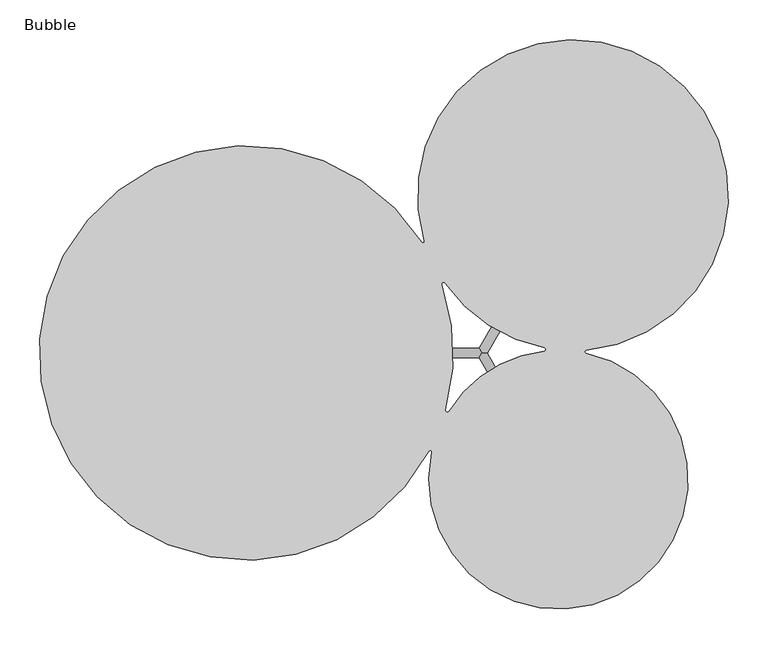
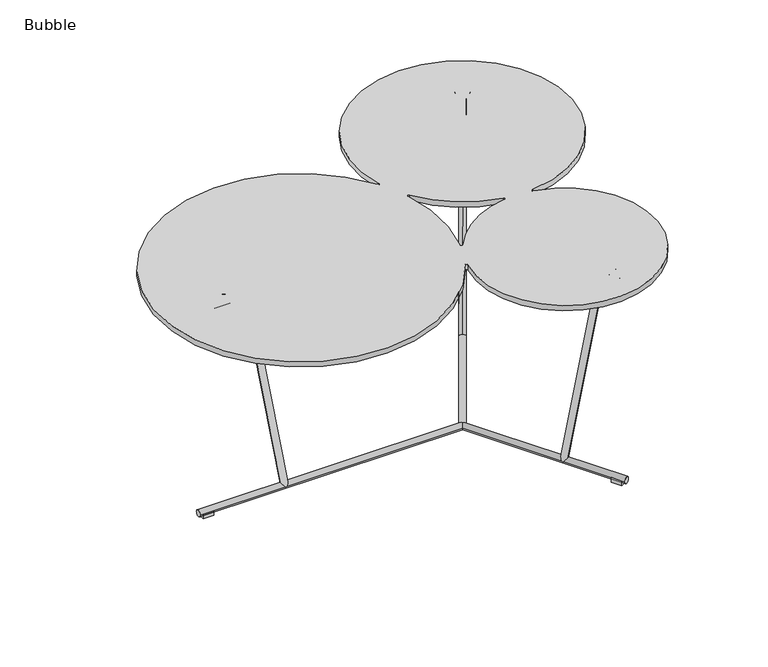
"""IFC4 building model written with IfcOpenShell, lengths in millimetres: furniture geometry, Furniture_Tables_Bla-Station_Bubble : Bubble."""

from ifc_helpers import new_model, si_unit, point, frame, frame_2d, origin, place, context, project, spatial, polyline, circle_curve, ellipse_curve, trimmed, segment, composite_curve, outline, extrude, source, transform, mapped, element, save
from ifc_brep_helpers import plane_surface, cylinder_surface, revolved_surface, spline_surface, advanced_brep


def bubble_e683490c(model_context):
    return source(origin(), model_context, "Body", "SolidModel", [
        extrude(outline(composite_curve([segment(trimmed(circle_curve(frame_2d((-172.3962757, -35.7557723)), 260.1037247), [point((56.6046667, -159.094801))], [point((47.3290736, 103.4373255))], False, "CARTESIAN"), True, "CONTINUOUS"), segment(trimmed(circle_curve(frame_2d((49.0185946, 104.5076146)), 2.0), [point((47.3290736, 103.4373255))], [point((50.9305666, 105.0944392))], True, "CARTESIAN"), True, "CONTINUOUS"), segment(trimmed(circle_curve(frame_2d((237.4222067, 162.3326585)), 195.0777937), [point((50.9305666, 105.0944392))], [point((253.9718119, -32.041867))], False, "CARTESIAN"), True, "CONTINUOUS"), segment(trimmed(circle_curve(frame_2d((254.1414838, -34.0346569)), 2.0), [point((253.9718119, -32.041867))], [point((253.7167021, -35.9890264))], True, "CARTESIAN"), True, "CONTINUOUS"), segment(trimmed(circle_curve(frame_2d((219.1894181, -194.8449028)), 162.5648264), [point((253.7167021, -35.9890264))], [point((60.3027176, -160.4597432))], False, "CARTESIAN"), True, "CONTINUOUS"), segment(trimmed(circle_curve(frame_2d((58.3571971, -160.0387071)), 1.9905581), [point((60.3027176, -160.4597432))], [point((56.6046667, -159.094801))], True, "CARTESIAN"), True, "CONTINUOUS")], self_intersect=False), holes=[composite_curve([segment(trimmed(circle_curve(frame_2d((75.0673141, 50.6162962)), 2.0), [point((76.7149365, 51.7500247))], [point((73.1790267, 49.9572283))], True, "CARTESIAN"), True, "CONTINUOUS"), segment(trimmed(circle_curve(frame_2d((-172.3962757, -35.7557723)), 260.1037247), [point((73.1790267, 49.9572283))], [point((77.7569048, -107.0111853))], False, "CARTESIAN"), True, "CONTINUOUS"), segment(trimmed(circle_curve(frame_2d((79.6803927, -107.5590853)), 2.0), [point((77.7569048, -107.0111853))], [point((81.3758829, -108.619893))], True, "CARTESIAN"), True, "CONTINUOUS"), segment(trimmed(circle_curve(frame_2d((219.1894181, -194.8449028)), 162.5648264), [point((81.3758829, -108.619893))], [point((201.0176398, -33.2989054))], False, "CARTESIAN"), True, "CONTINUOUS"), segment(trimmed(circle_curve(frame_2d((200.7940764, -31.3114399)), 2.0), [point((201.0176398, -33.2989054))], [point((201.1657888, -29.346286))], True, "CARTESIAN"), True, "CONTINUOUS"), segment(trimmed(circle_curve(frame_2d((237.4222067, 162.3326585)), 195.0777937), [point((201.1657888, -29.346286))], [point((76.7149365, 51.7500247))], False, "CARTESIAN"), True, "CONTINUOUS")], self_intersect=False)]), frame((0.0, 0.0, 408.0), z_axis=(0.0, 0.0, 1.0), x_axis=(1.0, 0.0, 0.0)), (0.0, 0.0, 1.0), 10.0),
        extrude(outline(composite_curve([segment(trimmed(circle_curve(frame_2d((0.0, -2.0)), 2.0), [point((2.0, -2.0))], [point((-2.0, -2.0))], False, "CARTESIAN"), True, "CONTINUOUS"), segment(polyline([(-2.0, -2.0), (-2.0, 20.0)]), True, "CONTINUOUS"), segment(trimmed(circle_curve(frame_2d((0.0, 20.0)), 2.0), [point((-2.0, 20.0))], [point((2.0, 20.0))], False, "CARTESIAN"), True, "CONTINUOUS"), segment(polyline([(2.0, 20.0), (2.0, -2.0)]), True, "CONTINUOUS")], self_intersect=False)), frame((275.6232902, -318.0122214, 405.9997931), z_axis=(-0.4999966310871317, 0.8660273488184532, 0.0), x_axis=(0.0, 0.0, 1.0)), (0.0, 0.0, 1.0), 28.0),
        advanced_brep(
        [(259.8913299, -294.7634489, 403.9997931), (278.9439315, -283.763523, 403.9997931), (278.9439315, -283.763523, 407.9997931), (259.8913299, -294.7634489, 407.9997931), (261.9158696, -276.2699378, 395.9997931), (261.9158696, -276.2699378, 407.9997931)],
        [
            (0, 1),
            (1, 2, circle_curve(frame((278.9439315, -283.763523, 405.9997931), z_axis=(0.49999663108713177, -0.8660273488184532, 0.0), x_axis=(0.8660273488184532, 0.49999663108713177, 0.0)), 2.0)),
            (2, 3),
            (3, 0, circle_curve(frame((259.8913299, -294.7634489, 405.9997931), z_axis=(0.49999663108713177, -0.8660273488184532, 0.0), x_axis=(0.8660273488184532, 0.49999663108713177, 0.0)), 2.0)),
            (4, 5, circle_curve(frame((261.9158696, -276.2699378, 401.9997931), z_axis=(-0.49999663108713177, 0.8660273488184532, 0.0), x_axis=(0.8660273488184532, 0.49999663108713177, 0.0)), 6.0)),
            (5, 4, circle_curve(frame((261.9158696, -276.2699378, 401.9997931), z_axis=(-0.49999663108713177, 0.8660273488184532, 0.0), x_axis=(0.8660273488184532, 0.49999663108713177, 0.0)), 6.0)),
            (0, 4),
            (4, 1),
            (2, 5),
            (5, 3),
        ],
        [
            plane_surface(frame((269.4176307, -289.263486, 405.9997931), z_axis=(0.49999663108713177, -0.8660273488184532, 0.0), x_axis=(0.8660273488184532, 0.49999663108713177, 0.0))),
            plane_surface(frame((261.9158696, -276.2699378, 401.9997931), z_axis=(-0.49999663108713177, 0.8660273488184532, 0.0), x_axis=(0.8660273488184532, 0.49999663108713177, 0.0))),
            plane_surface(frame((261.9158696, -276.2699378, 395.9997931), z_axis=(0.23524828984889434, -0.407465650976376, -0.8824001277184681), x_axis=(0.8660273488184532, 0.4999966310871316, 0.0))),
            plane_surface(frame((261.9158696, -276.2699378, 407.9997931), z_axis=(0.0, 0.0, 1.0), x_axis=(-0.8660273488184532, -0.4999966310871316, 0.0))),
            spline_surface(2, 1, [[(261.9158696, -276.2699378, 395.9997931), (278.9439315, -283.763523, 403.9997931)], [(267.1120336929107, -273.2699580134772, 395.9997931), (280.6759861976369, -282.76352973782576, 403.9997931)], [(267.1120336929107, -273.2699580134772, 401.9997931), (280.6759861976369, -282.76352973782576, 405.9997931)], [(267.1120336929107, -273.2699580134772, 407.9997931), (280.6759861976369, -282.76352973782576, 407.9997931)], [(261.9158696, -276.2699378, 407.9997931), (278.9439315, -283.763523, 407.9997931)]], [3, 2, 3], [2, 2], [0.0, 1.0, 2.0], [0.0, 1.0], weights=[[1.0, 1.0], [0.7071067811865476, 0.7071067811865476], [1.0, 1.0], [0.7071067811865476, 0.7071067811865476], [1.0, 1.0]]),
            spline_surface(2, 1, [[(261.9158696, -276.2699378, 407.9997931), (259.8913299, -294.7634489, 407.9997931)], [(256.7197055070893, -279.26991758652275, 407.9997931), (258.1592752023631, -295.7634421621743, 407.9997931)], [(256.7197055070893, -279.26991758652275, 401.9997931), (258.1592752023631, -295.7634421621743, 405.9997931)], [(256.7197055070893, -279.26991758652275, 395.9997931), (258.1592752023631, -295.7634421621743, 403.9997931)], [(261.9158696, -276.2699378, 395.9997931), (259.8913299, -294.7634489, 403.9997931)]], [3, 2, 3], [2, 2], [0.0, 1.0, 2.0], [0.0, 1.0], weights=[[1.0, 1.0], [0.7071067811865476, 0.7071067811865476], [1.0, 1.0], [0.7071067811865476, 0.7071067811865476], [1.0, 1.0]]),
        ],
        [
            (0, [[1, 2, 3, 4]]),
            (1, [[5, 6]]),
            (2, [[-1, 7, 8]]),
            (3, [[-3, 9, 10]]),
            (4, [[-6, -9, -2, -8]]),
            (5, [[-5, -7, -4, -10]]),
        ],
    ),
        advanced_brep(
        [(213.0220837, -191.5826557, 10.0418349), (218.9309, -201.8171176, 7.9581651), (246.5754696, -249.699347, 390.6462153), (252.4842859, -259.9338089, 388.5625455), (261.9158696, -276.2699378, 407.9997931), (261.9158696, -276.2699378, 395.9997931), (256.9158981, -267.6096553, 395.9997931), (256.9158981, -267.6096553, 407.9997931)],
        [
            (0, 1, circle_curve(frame((215.9764918, -196.6998867, 9.0), z_axis=(-0.08681899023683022, 0.15037625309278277, -0.9848093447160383), x_axis=(0.49240135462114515, -0.8528718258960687, -0.17363915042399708)), 6.0)),
            (1, 0, circle_curve(frame((215.9764918, -196.6998867, 9.0), z_axis=(-0.08681899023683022, 0.15037625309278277, -0.9848093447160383), x_axis=(0.49240135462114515, -0.8528718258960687, -0.17363915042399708)), 6.0)),
            (0, 2),
            (2, 3, circle_curve(frame((249.5298777, -254.8165779, 389.6043804), z_axis=(-0.08681899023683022, 0.15037625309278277, -0.9848093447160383), x_axis=(0.49240135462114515, -0.8528718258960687, -0.17363915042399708)), 6.0)),
            (3, 1),
            (3, 2, circle_curve(frame((249.5298777, -254.8165779, 389.6043804), z_axis=(-0.08681899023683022, 0.15037625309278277, -0.9848093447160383), x_axis=(0.49240135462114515, -0.8528718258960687, -0.17363915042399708)), 6.0)),
            (4, 5, circle_curve(frame((261.9158696, -276.2699378, 401.9997931), z_axis=(0.4999966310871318, -0.8660273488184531, 0.0), x_axis=(0.0, 0.0, -1.0)), 6.0)),
            (5, 4, circle_curve(frame((261.9158696, -276.2699378, 401.9997931), z_axis=(0.4999966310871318, -0.8660273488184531, 0.0), x_axis=(0.0, 0.0, -1.0)), 6.0)),
            (6, 7, circle_curve(frame((256.9158981, -267.6096553, 401.9997931), z_axis=(0.4999966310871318, -0.8660273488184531, 0.0), x_axis=(0.0, 0.0, -1.0)), 6.0)),
            (7, 4),
            (5, 6),
            (7, 6, circle_curve(frame((256.9158981, -267.6096553, 401.9997931), z_axis=(0.4999966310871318, -0.8660273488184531, 0.0), x_axis=(0.0, 0.0, -1.0)), 6.0)),
            (6, 3, circle_curve(frame((256.9158981, -267.6096553, 386.9997931), z_axis=(-0.8660273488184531, -0.49999663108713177, 0.0), x_axis=(-0.49240135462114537, 0.8528718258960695, 0.17363915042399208)), 9.0)),
            (2, 7, circle_curve(frame((256.9158981, -267.6096553, 386.9997931), z_axis=(0.8660273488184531, 0.49999663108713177, 0.0), x_axis=(-0.49240135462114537, 0.8528718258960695, 0.17363915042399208)), 21.0)),
        ],
        [
            plane_surface(frame((185.0138817, -214.5759974, 9.0), z_axis=(-0.08681899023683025, 0.15037625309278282, -0.9848093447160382), x_axis=(0.8660273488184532, 0.49999663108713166, 0.0))),
            cylinder_surface(frame((215.9764918, -196.6998867, 9.0), z_axis=(-0.08681899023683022, 0.15037625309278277, -0.9848093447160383), x_axis=(0.49240135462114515, -0.8528718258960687, -0.17363915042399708)), 6.0),
            plane_surface(frame((230.9532595, -294.1460485, 401.9997931), z_axis=(0.49999663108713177, -0.8660273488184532, 0.0), x_axis=(0.8660273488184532, 0.49999663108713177, 0.0))),
            cylinder_surface(frame((256.9158981, -267.6096553, 401.9997931), z_axis=(-0.4999966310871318, 0.8660273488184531, 0.0), x_axis=(0.0, 0.0, -1.0)), 6.0),
            revolved_surface(trimmed(ellipse_curve(frame((249.5298777, -254.8165779, 389.6043804), z_axis=(-0.08681899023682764, 0.15037625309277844, -0.9848093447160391), x_axis=(0.49240135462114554, -0.8528718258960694, -0.17363915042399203)), 6.0, 6.0), [point((246.5754696, -249.699347, 390.6462153))], [point((252.4842859, -259.9338089, 388.5625455))], True, "CARTESIAN"), (225.9532879, -285.485766, 386.9997931), (0.8660273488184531, 0.49999663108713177, 0.0)),
            revolved_surface(trimmed(ellipse_curve(frame((249.5298777, -254.8165779, 389.6043804), z_axis=(-0.08681899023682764, 0.15037625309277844, -0.9848093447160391), x_axis=(0.49240135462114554, -0.8528718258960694, -0.17363915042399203)), 6.0, 6.0), [point((252.4842859, -259.9338089, 388.5625455))], [point((246.5754696, -249.699347, 390.6462153))], True, "CARTESIAN"), (225.9532879, -285.485766, 386.9997931), (0.8660273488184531, 0.49999663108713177, 0.0)),
        ],
        [
            (0, [[1, 2]]),
            (1, [[-1, 3, 4, 5]]),
            (1, [[-2, -5, 6, -3]]),
            (2, [[7, 8]]),
            (3, [[9, 10, -8, 11]]),
            (3, [[12, -11, -7, -10]]),
            (4, [[13, -4, 14, -9]]),
            (5, [[-14, -6, -13, -12]]),
        ],
    ),
        extrude(outline(composite_curve([segment(polyline([(-2.0, -2.0), (-2.0, 20.0)]), True, "CONTINUOUS"), segment(trimmed(circle_curve(frame_2d((0.0, 20.0)), 2.0), [point((-2.0, 20.0))], [point((2.0, 20.0))], False, "CARTESIAN"), True, "CONTINUOUS"), segment(polyline([(2.0, 20.0), (2.0, -2.0)]), True, "CONTINUOUS"), segment(trimmed(circle_curve(frame_2d((0.0, -2.0)), 2.0), [point((2.0, -2.0))], [point((-2.0, -2.0))], False, "CARTESIAN"), True, "CONTINUOUS")], self_intersect=False)), frame((308.6487485, 267.7185424, 405.9997931), z_axis=(0.5002766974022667, 0.8658655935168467, 0.0), x_axis=(0.0, 0.0, -1.0)), (0.0, 0.0, 1.0), 28.0),
        advanced_brep(
        [(310.3804797, 266.717989, 403.9997931), (291.3314366, 277.7240763, 403.9997931), (291.3314366, 277.7240763, 407.9997931), (310.3804797, 266.717989, 407.9997931), (293.349995, 259.2299114, 395.9997931), (293.349995, 259.2299114, 407.9997931)],
        [
            (0, 1),
            (1, 2, circle_curve(frame((291.3314366, 277.7240763, 405.9997931), z_axis=(0.5002766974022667, 0.8658655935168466, 0.0), x_axis=(-0.8658655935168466, 0.5002766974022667, 0.0)), 2.0)),
            (2, 3),
            (3, 0, circle_curve(frame((310.3804797, 266.717989, 405.9997931), z_axis=(0.5002766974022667, 0.8658655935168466, 0.0), x_axis=(-0.8658655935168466, 0.5002766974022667, 0.0)), 2.0)),
            (4, 5, circle_curve(frame((293.349995, 259.2299114, 401.9997931), z_axis=(-0.5002766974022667, -0.8658655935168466, 0.0), x_axis=(-0.8658655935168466, 0.5002766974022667, 0.0)), 6.0)),
            (5, 4, circle_curve(frame((293.349995, 259.2299114, 401.9997931), z_axis=(-0.5002766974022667, -0.8658655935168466, 0.0), x_axis=(-0.8658655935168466, 0.5002766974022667, 0.0)), 6.0)),
            (0, 4),
            (4, 1),
            (2, 5),
            (5, 3),
        ],
        [
            plane_surface(frame((300.8559582, 272.2210327, 405.9997931), z_axis=(0.5002766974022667, 0.8658655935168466, 0.0), x_axis=(-0.8658655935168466, 0.5002766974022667, 0.0))),
            plane_surface(frame((293.349995, 259.2299114, 401.9997931), z_axis=(-0.5002766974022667, -0.8658655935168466, 0.0), x_axis=(-0.8658655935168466, 0.5002766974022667, 0.0))),
            plane_surface(frame((293.349995, 259.2299114, 395.9997931), z_axis=(0.23538006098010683, 0.40738954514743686, -0.8824001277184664), x_axis=(-0.8658655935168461, 0.5002766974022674, 0.0))),
            plane_surface(frame((293.349995, 259.2299114, 407.9997931), z_axis=(0.0, 0.0, 1.0000000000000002), x_axis=(0.8658655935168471, -0.5002766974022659, 0.0))),
            spline_surface(2, 1, [[(293.349995, 259.2299114, 395.9997931), (291.3314366, 277.7240763, 403.9997931)], [(288.1548014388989, 262.2315715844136, 395.9997931), (289.59970541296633, 278.7246296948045, 403.9997931)], [(288.1548014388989, 262.2315715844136, 401.9997931), (289.59970541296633, 278.7246296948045, 405.9997931)], [(288.1548014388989, 262.2315715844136, 407.9997931), (289.59970541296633, 278.7246296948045, 407.9997931)], [(293.349995, 259.2299114, 407.9997931), (291.3314366, 277.7240763, 407.9997931)]], [3, 2, 3], [2, 2], [0.0, 1.0, 2.0], [0.0, 1.0], weights=[[1.0, 1.0], [0.7071067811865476, 0.7071067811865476], [1.0, 1.0], [0.7071067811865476, 0.7071067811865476], [1.0, 1.0]]),
            spline_surface(2, 1, [[(293.349995, 259.2299114, 407.9997931), (310.3804797, 266.717989, 407.9997931)], [(298.54518856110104, 256.2282512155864, 407.9997931), (312.1122108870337, 265.7174356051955, 407.9997931)], [(298.54518856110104, 256.2282512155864, 401.9997931), (312.1122108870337, 265.7174356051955, 405.9997931)], [(298.54518856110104, 256.2282512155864, 395.9997931), (312.1122108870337, 265.7174356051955, 403.9997931)], [(293.349995, 259.2299114, 395.9997931), (310.3804797, 266.717989, 403.9997931)]], [3, 2, 3], [2, 2], [0.0, 1.0, 2.0], [0.0, 1.0], weights=[[1.0, 1.0], [0.7071067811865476, 0.7071067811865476], [1.0, 1.0], [0.7071067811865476, 0.7071067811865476], [1.0, 1.0]]),
        ],
        [
            (0, [[1, 2, 3, 4]]),
            (1, [[5, 6]]),
            (2, [[-1, 7, 8]]),
            (3, [[-3, 9, 10]]),
            (4, [[-6, -9, -2, -8]]),
            (5, [[-5, -7, -4, -10]]),
        ],
    ),
        advanced_brep(
        [(244.428822, 174.5584471, 10.0418349), (250.340948, 184.7909974, 7.9581651), (278.0010023, 232.6642834, 390.6462153), (283.9131283, 242.8968337, 388.5625455), (293.349995, 259.2299114, 407.9997931), (293.349995, 259.2299114, 395.9997931), (288.3472228, 250.5712465, 395.9997931), (288.3472228, 250.5712465, 407.9997931)],
        [
            (0, 1, circle_curve(frame((247.384885, 179.6747223, 9.0), z_axis=(-0.08686762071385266, -0.15034816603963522, -0.9848093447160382), x_axis=(0.4926771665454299, 0.8527125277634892, -0.17363915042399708)), 6.0)),
            (1, 0, circle_curve(frame((247.384885, 179.6747223, 9.0), z_axis=(-0.08686762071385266, -0.15034816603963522, -0.9848093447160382), x_axis=(0.4926771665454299, 0.8527125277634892, -0.17363915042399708)), 6.0)),
            (0, 2),
            (2, 3, circle_curve(frame((280.9570653, 237.7805586, 389.6043804), z_axis=(-0.08686762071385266, -0.15034816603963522, -0.9848093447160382), x_axis=(0.4926771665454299, 0.8527125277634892, -0.17363915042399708)), 6.0)),
            (3, 1),
            (3, 2, circle_curve(frame((280.9570653, 237.7805586, 389.6043804), z_axis=(-0.08686762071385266, -0.15034816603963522, -0.9848093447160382), x_axis=(0.4926771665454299, 0.8527125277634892, -0.17363915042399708)), 6.0)),
            (4, 5, circle_curve(frame((293.349995, 259.2299114, 401.9997931), z_axis=(0.5002766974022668, 0.8658655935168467, 0.0), x_axis=(0.0, 0.0, -1.0)), 6.0)),
            (5, 4, circle_curve(frame((293.349995, 259.2299114, 401.9997931), z_axis=(0.5002766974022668, 0.8658655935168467, 0.0), x_axis=(0.0, 0.0, -1.0)), 6.0)),
            (6, 7, circle_curve(frame((288.3472228, 250.5712465, 401.9997931), z_axis=(0.5002766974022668, 0.8658655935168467, 0.0), x_axis=(0.0, 0.0, -1.0)), 6.0)),
            (7, 4),
            (5, 6),
            (7, 6, circle_curve(frame((288.3472228, 250.5712465, 401.9997931), z_axis=(0.5002766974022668, 0.8658655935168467, 0.0), x_axis=(0.0, 0.0, -1.0)), 6.0)),
            (6, 3, circle_curve(frame((288.3472228, 250.5712465, 386.9997931), z_axis=(0.8658655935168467, -0.5002766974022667, 0.0), x_axis=(-0.4926771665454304, -0.85271252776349, 0.17363915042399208)), 9.0)),
            (2, 7, circle_curve(frame((288.3472228, 250.5712465, 386.9997931), z_axis=(-0.8658655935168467, 0.5002766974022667, 0.0), x_axis=(-0.4926771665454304, -0.85271252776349, 0.17363915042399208)), 21.0)),
        ],
        [
            plane_surface(frame((278.3417119, 161.7885985, 9.0), z_axis=(-0.08686762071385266, -0.15034816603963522, -0.9848093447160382), x_axis=(-0.8658655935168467, 0.5002766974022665, 0.0))),
            cylinder_surface(frame((247.384885, 179.6747223, 9.0), z_axis=(-0.08686762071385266, -0.15034816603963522, -0.9848093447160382), x_axis=(0.4926771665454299, 0.8527125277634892, -0.17363915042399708)), 6.0),
            plane_surface(frame((324.306822, 241.3437877, 401.9997931), z_axis=(0.5002766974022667, 0.8658655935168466, 0.0), x_axis=(-0.8658655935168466, 0.5002766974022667, 0.0))),
            cylinder_surface(frame((288.3472228, 250.5712465, 401.9997931), z_axis=(-0.5002766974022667, -0.8658655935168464, 0.0), x_axis=(0.0, 0.0, -1.0)), 6.0),
            revolved_surface(trimmed(ellipse_curve(frame((280.9570653, 237.7805586, 389.6043804), z_axis=(-0.08686762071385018, -0.15034816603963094, -0.9848093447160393), x_axis=(0.4926771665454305, 0.85271252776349, -0.1736391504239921)), 6.0, 6.0), [point((278.0010023, 232.6642834, 390.6462153))], [point((283.9131283, 242.8968337, 388.5625455))], True, "CARTESIAN"), (319.3040498, 232.6851227, 386.9997931), (-0.8658655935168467, 0.5002766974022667, 0.0)),
            revolved_surface(trimmed(ellipse_curve(frame((280.9570653, 237.7805586, 389.6043804), z_axis=(-0.08686762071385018, -0.15034816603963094, -0.9848093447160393), x_axis=(0.4926771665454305, 0.85271252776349, -0.1736391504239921)), 6.0, 6.0), [point((283.9131283, 242.8968337, 388.5625455))], [point((278.0010023, 232.6642834, 390.6462153))], True, "CARTESIAN"), (319.3040498, 232.6851227, 386.9997931), (-0.8658655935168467, 0.5002766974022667, 0.0)),
        ],
        [
            (0, [[1, 2]]),
            (1, [[-1, 3, 4, 5]]),
            (1, [[-2, -5, 6, -3]]),
            (2, [[7, 8]]),
            (3, [[9, 10, -8, 11]]),
            (3, [[12, -11, -7, -10]]),
            (4, [[13, -4, 14, -9]]),
            (5, [[-14, -6, -13, -12]]),
        ],
    ),
        extrude(outline(composite_curve([segment(trimmed(circle_curve(frame_2d((-24.7524623, 405.9997931)), 2.0), [point((-24.7524623, 407.9997931))], [point((-24.7524623, 403.9997931))], False, "CARTESIAN"), True, "CONTINUOUS"), segment(polyline([(-24.7524623, 403.9997931), (-46.7524623, 403.9997931)]), True, "CONTINUOUS"), segment(trimmed(circle_curve(frame_2d((-46.7524623, 405.9997931)), 2.0), [point((-46.7524623, 403.9997931))], [point((-46.7524623, 407.9997931))], False, "CARTESIAN"), True, "CONTINUOUS"), segment(polyline([(-46.7524623, 407.9997931), (-24.7524623, 407.9997931)]), True, "CONTINUOUS")], self_intersect=False)), frame((-337.2792726, 0.0, 0.0), z_axis=(1.0, 0.0, 0.0), x_axis=(0.0, 1.0, 0.0)), (0.0, 0.0, 1.0), 28.0),
        advanced_brep(
        [(-309.2792726, -24.7524623, 403.9997931), (-309.2792726, -46.7524623, 403.9997931), (-309.2792726, -46.7524623, 407.9997931), (-309.2792726, -24.7524623, 407.9997931), (-294.2756492, -35.7524623, 395.9997931), (-294.2756492, -35.7524623, 407.9997931)],
        [
            (0, 1),
            (1, 2, circle_curve(frame((-309.2792726, -46.7524623, 405.9997931), z_axis=(-1.0, 0.0, 0.0), x_axis=(0.0, -1.0, 0.0)), 2.0)),
            (2, 3),
            (3, 0, circle_curve(frame((-309.2792726, -24.7524623, 405.9997931), z_axis=(-1.0, 0.0, 0.0), x_axis=(0.0, -1.0, 0.0)), 2.0)),
            (4, 5, circle_curve(frame((-294.2756492, -35.7524623, 401.9997931), z_axis=(1.0, 0.0, 0.0), x_axis=(0.0, -1.0, 0.0)), 6.0)),
            (5, 4, circle_curve(frame((-294.2756492, -35.7524623, 401.9997931), z_axis=(1.0, 0.0, 0.0), x_axis=(0.0, -1.0, 0.0)), 6.0)),
            (0, 4),
            (4, 1),
            (2, 5),
            (5, 3),
        ],
        [
            plane_surface(frame((-309.2792726, -35.7524623, 405.9997931), z_axis=(-1.0, 0.0, 0.0), x_axis=(0.0, -1.0, 0.0))),
            plane_surface(frame((-294.2756492, -35.7524623, 401.9997931), z_axis=(1.0, 0.0, 0.0), x_axis=(0.0, -1.0, 0.0))),
            plane_surface(frame((-294.2756492, -35.7524623, 395.9997931), z_axis=(-0.47049974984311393, 0.0, -0.8824001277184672), x_axis=(0.0, -1.0, 0.0))),
            plane_surface(frame((-294.2756492, -35.7524623, 407.9997931), z_axis=(0.0, 0.0, 1.0), x_axis=(0.0, 1.0, 0.0))),
            spline_surface(2, 1, [[(-294.2756492, -35.7524623, 395.9997931), (-309.2792726, -46.7524623, 403.9997931)], [(-294.2756492, -41.7524623, 395.9997931), (-309.2792726, -48.7524623, 403.9997931)], [(-294.2756492, -41.7524623, 401.9997931), (-309.2792726, -48.7524623, 405.9997931)], [(-294.2756492, -41.7524623, 407.9997931), (-309.2792726, -48.7524623, 407.9997931)], [(-294.2756492, -35.7524623, 407.9997931), (-309.2792726, -46.7524623, 407.9997931)]], [3, 2, 3], [2, 2], [0.0, 1.0, 2.0], [0.0, 1.0], weights=[[1.0, 1.0], [0.7071067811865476, 0.7071067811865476], [1.0, 1.0], [0.7071067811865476, 0.7071067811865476], [1.0, 1.0]]),
            spline_surface(2, 1, [[(-294.2756492, -35.7524623, 407.9997931), (-309.2792726, -24.7524623, 407.9997931)], [(-294.2756492, -29.752462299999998, 407.9997931), (-309.2792726, -22.7524623, 407.9997931)], [(-294.2756492, -29.752462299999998, 401.9997931), (-309.2792726, -22.7524623, 405.9997931)], [(-294.2756492, -29.752462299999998, 395.9997931), (-309.2792726, -22.7524623, 403.9997931)], [(-294.2756492, -35.7524623, 395.9997931), (-309.2792726, -24.7524623, 403.9997931)]], [3, 2, 3], [2, 2], [0.0, 1.0, 2.0], [0.0, 1.0], weights=[[1.0, 1.0], [0.7071067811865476, 0.7071067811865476], [1.0, 1.0], [0.7071067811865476, 0.7071067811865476], [1.0, 1.0]]),
        ],
        [
            (0, [[1, 2, 3, 4]]),
            (1, [[5, 6]]),
            (2, [[-1, 7, 8]]),
            (3, [[-3, 9, 10]]),
            (4, [[-6, -9, -2, -8]]),
            (5, [[-5, -7, -4, -10]]),
        ],
    ),
        advanced_brep(
        [(-196.4874186, -35.7524623, 10.0418349), (-208.3051308, -35.7524623, 7.9581651), (-263.5946426, -35.7524623, 390.6462153), (-275.4123547, -35.7524623, 388.5625455), (-294.2756492, -35.7524623, 407.9997931), (-294.2756492, -35.7524623, 395.9997931), (-284.2756388, -35.7524623, 395.9997931), (-284.2756388, -35.7524623, 407.9997931)],
        [
            (0, 1, circle_curve(frame((-202.3962747, -35.7524623, 9.0), z_axis=(0.17363915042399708, 0.0, -0.9848093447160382), x_axis=(-0.9848093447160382, 0.0, -0.17363915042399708)), 6.0)),
            (1, 0, circle_curve(frame((-202.3962747, -35.7524623, 9.0), z_axis=(0.17363915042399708, 0.0, -0.9848093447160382), x_axis=(-0.9848093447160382, 0.0, -0.17363915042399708)), 6.0)),
            (0, 2),
            (2, 3, circle_curve(frame((-269.5034987, -35.7524623, 389.6043804), z_axis=(0.17363915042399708, 0.0, -0.9848093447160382), x_axis=(-0.9848093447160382, 0.0, -0.17363915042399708)), 6.0)),
            (3, 1),
            (3, 2, circle_curve(frame((-269.5034987, -35.7524623, 389.6043804), z_axis=(0.17363915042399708, 0.0, -0.9848093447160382), x_axis=(-0.9848093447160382, 0.0, -0.17363915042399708)), 6.0)),
            (4, 5, circle_curve(frame((-294.2756492, -35.7524623, 401.9997931), z_axis=(-1.0, 0.0, 0.0), x_axis=(0.0, 0.0, -1.0)), 6.0)),
            (5, 4, circle_curve(frame((-294.2756492, -35.7524623, 401.9997931), z_axis=(-1.0, 0.0, 0.0), x_axis=(0.0, 0.0, -1.0)), 6.0)),
            (6, 7, circle_curve(frame((-284.2756388, -35.7524623, 401.9997931), z_axis=(-1.0, 0.0, 0.0), x_axis=(0.0, 0.0, -1.0)), 6.0)),
            (7, 4),
            (5, 6),
            (7, 6, circle_curve(frame((-284.2756388, -35.7524623, 401.9997931), z_axis=(-1.0, 0.0, 0.0), x_axis=(0.0, 0.0, -1.0)), 6.0)),
            (6, 3, circle_curve(frame((-284.2756388, -35.7524623, 386.9997931), z_axis=(0.0, 1.0, 0.0), x_axis=(0.9848093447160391, 0.0, 0.17363915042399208)), 9.0)),
            (2, 7, circle_curve(frame((-284.2756388, -35.7524623, 386.9997931), z_axis=(0.0, -1.0, 0.0), x_axis=(0.9848093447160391, 0.0, 0.17363915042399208)), 21.0)),
        ],
        [
            plane_surface(frame((-202.3962747, 0.0, 9.0), z_axis=(0.17363915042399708, 0.0, -0.9848093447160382), x_axis=(0.0, -1.0, 0.0))),
            cylinder_surface(frame((-202.3962747, -35.7524623, 9.0), z_axis=(0.17363915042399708, 0.0, -0.9848093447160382), x_axis=(-0.9848093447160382, 0.0, -0.17363915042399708)), 6.0),
            plane_surface(frame((-294.2756492, 0.0, 401.9997931), z_axis=(-1.0, 0.0, 0.0), x_axis=(0.0, -1.0, 0.0))),
            cylinder_surface(frame((-284.2756388, -35.7524623, 401.9997931), z_axis=(1.0, 0.0, 0.0), x_axis=(0.0, 0.0, -1.0)), 6.0),
            revolved_surface(trimmed(ellipse_curve(frame((-269.5034987, -35.7524623, 389.6043804), z_axis=(0.1736391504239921, 0.0, -0.9848093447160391), x_axis=(-0.9848093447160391, 0.0, -0.1736391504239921)), 6.0, 6.0), [point((-263.5946426, -35.7524623, 390.6462153))], [point((-275.4123547, -35.7524623, 388.5625455))], True, "CARTESIAN"), (-284.2756388, 0.0, 386.9997931), (0.0, -1.0, 0.0)),
            revolved_surface(trimmed(ellipse_curve(frame((-269.5034987, -35.7524623, 389.6043804), z_axis=(0.1736391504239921, 0.0, -0.9848093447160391), x_axis=(-0.9848093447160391, 0.0, -0.1736391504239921)), 6.0, 6.0), [point((-275.4123547, -35.7524623, 388.5625455))], [point((-263.5946426, -35.7524623, 390.6462153))], True, "CARTESIAN"), (-284.2756388, 0.0, 386.9997931), (0.0, -1.0, 0.0)),
        ],
        [
            (0, [[1, 2]]),
            (1, [[-1, 3, 4, 5]]),
            (1, [[-2, -5, 6, -3]]),
            (2, [[7, 8]]),
            (3, [[9, 10, -8, 11]]),
            (3, [[12, -11, -7, -10]]),
            (4, [[13, -4, 14, -9]]),
            (5, [[-14, -6, -13, -12]]),
        ],
    ),
        extrude(outline(composite_curve([segment(trimmed(circle_curve(frame_2d((9.0, -6.0)), 6.0), [point((9.0, 0.0))], [point((9.0, -12.0))], True, "CARTESIAN"), True, "CONTINUOUS"), segment(polyline([(9.0, -12.0), (0.0, -12.0), (0.0, 0.0), (9.0, 0.0)]), True, "CONTINUOUS")], self_intersect=False)), frame((275.7516515, -288.2335354, 0.0), z_axis=(-0.499988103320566, 0.8660322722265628, 0.0), x_axis=(0.0, 0.0, 1.0)), (0.0, 0.0, 1.0), 20.0),
        extrude(outline(composite_curve([segment(trimmed(circle_curve(frame_2d((9.0, -5.9999999)), 6.0), [point((9.0, 0.0))], [point((9.0, -11.9999999))], True, "CARTESIAN"), True, "CONTINUOUS"), segment(polyline([(9.0, -11.9999999), (0.0, -11.9999999), (0.0, 0.0), (9.0, 0.0)]), True, "CONTINUOUS")], self_intersect=False)), frame((302.7098803, 287.4136454, 0.0), z_axis=(-0.49999549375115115, -0.8660280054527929, 0.0), x_axis=(0.0, 0.0, 1.0)), (0.0, 0.0, 1.0), 19.7),
        extrude(outline(composite_curve([segment(trimmed(circle_curve(frame_2d((-35.7557741, 9.0)), 6.0), [point((-41.7557741, 9.0))], [point((-29.7557741, 9.0))], True, "CARTESIAN"), True, "CONTINUOUS"), segment(polyline([(-29.7557741, 9.0), (-29.7557741, 0.0), (-41.7557741, 0.0), (-41.7557741, 9.0)]), True, "CONTINUOUS")], self_intersect=False)), frame((-354.9442032, 0.0, 0.0), z_axis=(1.0, 0.0, 0.0), x_axis=(0.0, 1.0, 0.0)), (0.0, 0.0, 1.0), 20.0),
        advanced_brep(
        [(278.2519493, -292.5633953, 9.0), (267.8596444, -298.5633953, 9.0), (119.5916952, -41.7557741, 9.0), (123.0557968, -35.7557741, 3.0), (129.9840001, -35.7557741, 9.0), (123.0557968, -35.7557741, 15.0), (-359.9442032, -29.7557741, 9.0), (-359.9442032, -41.7557741, 9.0), (119.5916952, -29.7557741, 9.0), (305.3596444, 292.0037523, 9.0), (315.7519493, 286.0037523, 9.0)],
        [
            (0, 1, circle_curve(frame((273.0557968, -295.5633953, 9.0), z_axis=(0.4999999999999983, -0.8660254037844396, 0.0), x_axis=(-0.8660254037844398, -0.4999999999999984, 0.0)), 6.0)),
            (1, 0, circle_curve(frame((273.0557968, -295.5633953, 9.0), z_axis=(0.4999999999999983, -0.8660254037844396, 0.0), x_axis=(-0.8660254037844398, -0.4999999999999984, 0.0)), 6.0)),
            (1, 2),
            (2, 3, ellipse_curve(frame((123.0557968, -35.7557741, 9.0), z_axis=(0.8660254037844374, -0.5000000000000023, 0.0), x_axis=(0.5000000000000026, 0.8660254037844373, 0.0)), 6.9282032, 6.0)),
            (3, 4, ellipse_curve(frame((123.0557968, -35.7557741, 9.0), z_axis=(0.0, -1.0, 0.0), x_axis=(-1.0, 0.0, 0.0)), 6.9282032, 6.0)),
            (4, 0),
            (4, 5, ellipse_curve(frame((123.0557968, -35.7557741, 9.0), z_axis=(0.0, -1.0, 0.0), x_axis=(-1.0, 0.0, 0.0)), 6.9282032, 6.0)),
            (5, 2, ellipse_curve(frame((123.0557968, -35.7557741, 9.0), z_axis=(0.8660254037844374, -0.5000000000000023, 0.0), x_axis=(0.5000000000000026, 0.8660254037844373, 0.0)), 6.9282032, 6.0)),
            (6, 7, circle_curve(frame((-359.9442032, -35.7557741, 9.0), z_axis=(-1.0, 0.0, 0.0), x_axis=(0.0, -1.0, 0.0)), 6.0)),
            (7, 6, circle_curve(frame((-359.9442032, -35.7557741, 9.0), z_axis=(-1.0, 0.0, 0.0), x_axis=(0.0, -1.0, 0.0)), 6.0)),
            (6, 8),
            (8, 3, ellipse_curve(frame((123.0557968, -35.7557741, 9.0), z_axis=(-0.8660254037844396, -0.4999999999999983, 0.0), x_axis=(-0.49999999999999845, 0.8660254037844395, 0.0)), 6.9282032, 6.0)),
            (2, 7),
            (5, 8, ellipse_curve(frame((123.0557968, -35.7557741, 9.0), z_axis=(-0.8660254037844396, -0.4999999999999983, 0.0), x_axis=(-0.49999999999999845, 0.8660254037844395, 0.0)), 6.9282032, 6.0)),
            (9, 10, circle_curve(frame((310.5557968, 289.0037523, 9.0), z_axis=(0.5000000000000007, 0.8660254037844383, 0.0), x_axis=(0.8660254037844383, -0.5000000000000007, 0.0)), 6.0)),
            (10, 9, circle_curve(frame((310.5557968, 289.0037523, 9.0), z_axis=(0.5000000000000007, 0.8660254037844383, 0.0), x_axis=(0.8660254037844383, -0.5000000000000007, 0.0)), 6.0)),
            (10, 4),
            (8, 9),
        ],
        [
            plane_surface(frame((273.0557968, -295.5633953, 0.0), z_axis=(0.4999999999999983, -0.8660254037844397, 0.0), x_axis=(0.0, 0.0, 1.0))),
            cylinder_surface(frame((123.0557968, -35.7557741, 9.0), z_axis=(-0.4999999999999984, 0.8660254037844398, 0.0), x_axis=(-0.8660254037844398, -0.4999999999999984, 0.0)), 6.0),
            plane_surface(frame((-359.9442032, -35.7557741, 0.0), z_axis=(-1.0, 0.0, 0.0), x_axis=(0.0, 0.0, 1.0))),
            cylinder_surface(frame((-359.9442032, -35.7557741, 9.0), z_axis=(-1.0, 0.0, 0.0), x_axis=(0.0, -1.0, 0.0)), 6.0),
            plane_surface(frame((310.5557968, 289.0037523, 0.0), z_axis=(0.5000000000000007, 0.8660254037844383, 0.0), x_axis=(0.0, 0.0, 1.0))),
            cylinder_surface(frame((123.0557968, -35.7557741, 9.0), z_axis=(-0.5000000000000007, -0.8660254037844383, 0.0), x_axis=(0.8660254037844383, -0.5000000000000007, 0.0)), 6.0),
        ],
        [
            (0, [[1, 2]]),
            (1, [[-2, 3, 4, 5, 6]]),
            (1, [[-1, -6, 7, 8, -3]]),
            (2, [[9, 10]]),
            (3, [[-9, 11, 12, -4, 13]]),
            (3, [[-10, -13, -8, 14, -11]]),
            (4, [[15, 16]]),
            (5, [[-16, 17, -5, -12, 18]]),
            (5, [[-15, -18, -14, -7, -17]]),
        ],
    ),
    ])


if __name__ == "__main__":
    model = new_model("IFC4")
    model_context = context("Model", 3, world=origin())
    ifc_project = project(units=[si_unit("LENGTHUNIT", "METRE", prefix="MILLI")], contexts=[model_context])
    site = spatial("IfcSite", under=ifc_project)
    building = spatial("IfcBuilding", under=site)
    placement = place(None, origin())
    bubble_shape = bubble_e683490c(model_context)
    element("IfcFurniture", 1, ObjectType="Furniture_Tables_Bla-Station_Bubble : Bubble", at=placement, inside=building, context=model_context, shape_type="MappedRepresentation", body=[
        mapped(bubble_shape, transform((0.0, 0.0, 0.0), x_axis=(1.0, 0.0, 0.0), y_axis=(0.0, 1.0, 0.0), z_axis=(0.0, 0.0, 1.0))),
    ])
    save(model, "model.ifc")
